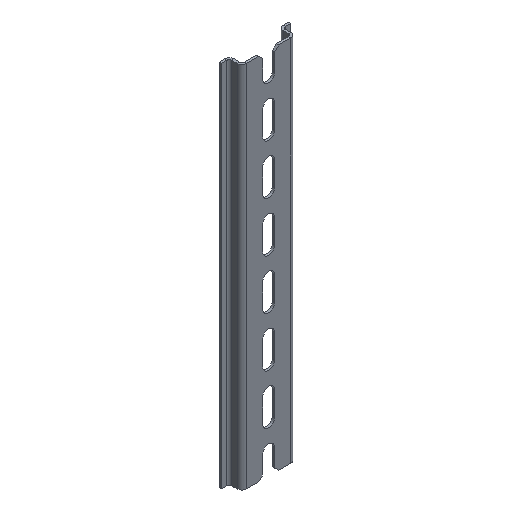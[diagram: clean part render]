
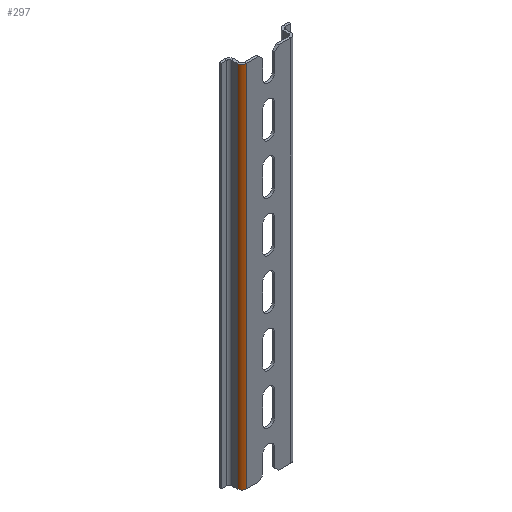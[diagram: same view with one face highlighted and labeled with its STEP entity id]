
A CAD part, isometric view. The second image highlights one B-rep face of the part: STEP entity #297.
In plain terms, the highlighted cylindrical face has radius 2.4 mm (diameter 4.8 mm), a partial arc.
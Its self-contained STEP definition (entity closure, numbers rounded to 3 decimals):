
#52 = AXIS2_PLACEMENT_3D ( 'NONE', #2081, #1344, #967 ) ;
#126 = CARTESIAN_POINT ( 'NONE',  ( -13.5, 2.4, 92.5 ) ) ;
#218 = DIRECTION ( 'NONE',  ( 0., 0., -1. ) ) ;
#272 = EDGE_CURVE ( 'NONE', #2085, #466, #1701, .T. ) ;
#297 = ADVANCED_FACE ( 'NONE', ( #1202 ), #1432, .T. ) ;
#407 = DIRECTION ( 'NONE',  ( 0., 0., -1. ) ) ;
#426 = CARTESIAN_POINT ( 'NONE',  ( -13.5, 2.4, 92.5 ) ) ;
#436 = ORIENTED_EDGE ( 'NONE', *, *, #1259, .T. ) ;
#443 = VERTEX_POINT ( 'NONE', #126 ) ;
#466 = VERTEX_POINT ( 'NONE', #690 ) ;
#469 = DIRECTION ( 'NONE',  ( 0., 0., -1. ) ) ;
#643 = CARTESIAN_POINT ( 'NONE',  ( -11.1, 2.4, -92.5 ) ) ;
#656 = EDGE_CURVE ( 'NONE', #2085, #443, #1547, .T. ) ;
#690 = CARTESIAN_POINT ( 'NONE',  ( -11.1, 0., -92.5 ) ) ;
#725 = ORIENTED_EDGE ( 'NONE', *, *, #656, .T. ) ;
#819 = CARTESIAN_POINT ( 'NONE',  ( -11.1, 2.4, 92.5 ) ) ;
#851 = DIRECTION ( 'NONE',  ( 0., 0., -1. ) ) ;
#859 = AXIS2_PLACEMENT_3D ( 'NONE', #819, #469, #2135 ) ;
#880 = AXIS2_PLACEMENT_3D ( 'NONE', #643, #851, #1424 ) ;
#967 = DIRECTION ( 'NONE',  ( 1., 0., 0. ) ) ;
#1070 = VECTOR ( 'NONE', #218, 1000. ) ;
#1169 = EDGE_LOOP ( 'NONE', ( #1208, #2059, #725, #436 ) ) ;
#1202 = FACE_OUTER_BOUND ( 'NONE', #1169, .T. ) ;
#1208 = ORIENTED_EDGE ( 'NONE', *, *, #1416, .F. ) ;
#1218 = CARTESIAN_POINT ( 'NONE',  ( -13.5, 2.4, -92.5 ) ) ;
#1251 = CARTESIAN_POINT ( 'NONE',  ( -11.1, 0., 92.5 ) ) ;
#1259 = EDGE_CURVE ( 'NONE', #443, #1501, #1312, .T. ) ;
#1312 = LINE ( 'NONE', #426, #1070 ) ;
#1344 = DIRECTION ( 'NONE',  ( 0., 0., -1. ) ) ;
#1416 = EDGE_CURVE ( 'NONE', #466, #1501, #1638, .T. ) ;
#1424 = DIRECTION ( 'NONE',  ( 1., 0., 0. ) ) ;
#1432 = CYLINDRICAL_SURFACE ( 'NONE', #859, 2.4 ) ;
#1501 = VERTEX_POINT ( 'NONE', #1218 ) ;
#1547 = CIRCLE ( 'NONE', #52, 2.4 ) ;
#1638 = CIRCLE ( 'NONE', #880, 2.4 ) ;
#1701 = LINE ( 'NONE', #1918, #2048 ) ;
#1918 = CARTESIAN_POINT ( 'NONE',  ( -11.1, 0., 92.5 ) ) ;
#2048 = VECTOR ( 'NONE', #407, 1000. ) ;
#2059 = ORIENTED_EDGE ( 'NONE', *, *, #272, .F. ) ;
#2081 = CARTESIAN_POINT ( 'NONE',  ( -11.1, 2.4, 92.5 ) ) ;
#2085 = VERTEX_POINT ( 'NONE', #1251 ) ;
#2135 = DIRECTION ( 'NONE',  ( -1., 0., 0. ) ) ;
